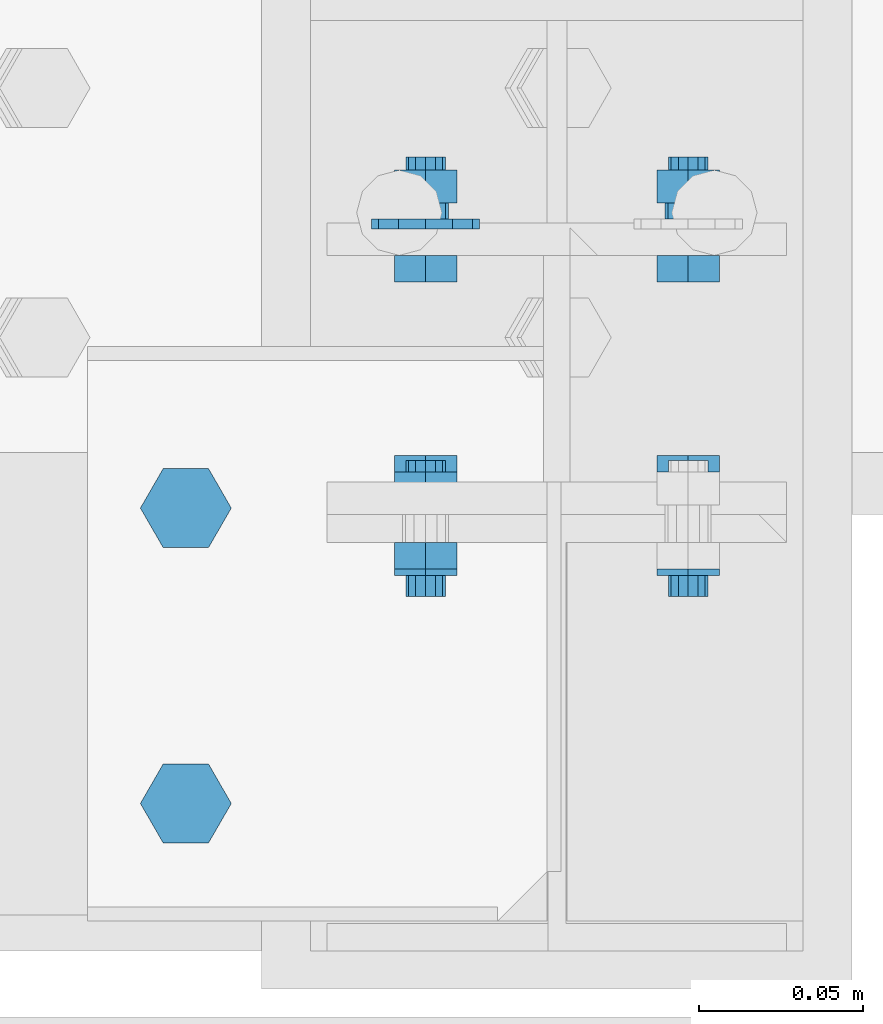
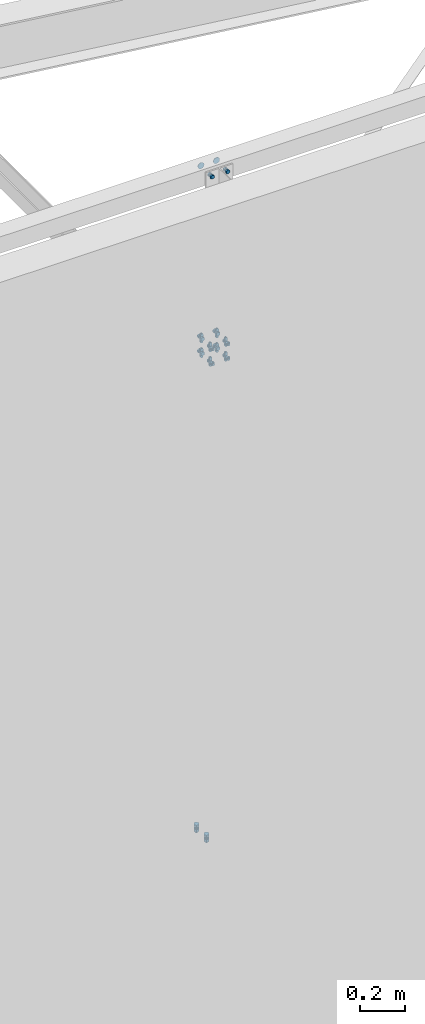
# One storey, part 297 of 3134: 5 mechanical fasteners, 4 elements without a shape of their own.
"""IFC2X3 building model written with IfcOpenShell, lengths in millimetres."""

from ifc_helpers import new_model, si_unit, frame, origin_with_axes, place, context, subcontext, project, spatial, faceted_brep, source, transform, mapped, material, type_object, element, aggregate, save


model = new_model("IFC2X3")

# Units and contexts
model_context = context("Model", 3, precision=1e-05, world=origin_with_axes())
body_context = subcontext(model_context, "Body", "Model", "MODEL_VIEW")
ifc_project = project(units=[si_unit("LENGTHUNIT", "METRE", prefix="MILLI"), si_unit("AREAUNIT", "SQUARE_METRE"), si_unit("VOLUMEUNIT", "CUBIC_METRE"), si_unit("MASSUNIT", "GRAM", prefix="KILO"), si_unit("TIMEUNIT", "SECOND"), si_unit("PLANEANGLEUNIT", "RADIAN"), si_unit("SOLIDANGLEUNIT", "STERADIAN"), si_unit("THERMODYNAMICTEMPERATUREUNIT", "DEGREE_CELSIUS"), si_unit("LUMINOUSINTENSITYUNIT", "LUMEN")], contexts=[model_context])

# Site, building, storey
site_placement = place(None, origin_with_axes())
site = spatial("IfcSite", under=ifc_project, at=site_placement, CompositionType="ELEMENT")
building_placement = place(site_placement, origin_with_axes())
building = spatial("IfcBuilding", under=site, at=building_placement, Name="Undefined", CompositionType="ELEMENT")
storey_placement = place(building_placement, origin_with_axes())
storey = spatial("IfcBuildingStorey", under=building, at=storey_placement, Name="Undefined", CompositionType="ELEMENT", Elevation=0.0)

# Assembly, mechanical fastener
assembly_1_placement = place(storey_placement, origin_with_axes())
assembly_1 = element("IfcElementAssembly", 1, at=assembly_1_placement, inside=storey, AssemblyPlace="NOTDEFINED", PredefinedType="RIGID_FRAME")
ifc_material = material(Name="8.8")
mechanical_fastener_type = type_object("IfcMechanicalFastenerType", Name="Bolt assembly")
shared_shape_1 = source(origin_with_axes(), body_context, "Body", "Brep", [
    faceted_brep([(16.5, -3.0, 0.0), (14.289419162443, -3.0, 8.25000000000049), (8.24999999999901, -3.0, 14.2894191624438), (-1.70995436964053e-12, -3.0, 16.5), (-8.25000000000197, -3.0, 14.2894191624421), (-14.2894191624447, -3.0, 8.24999999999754), (-16.5, -3.0, -3.41990873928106e-12), (-14.2894191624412, -3.0, -8.25000000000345), (-8.24999999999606, -3.0, -14.2894191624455), (5.11154442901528e-12, -3.0, -16.5), (8.25000000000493, -3.0, -14.2894191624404), (14.2894191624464, -3.0, -8.24999999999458), (14.2894191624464, 0.1, -8.24999999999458), (8.25000000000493, 0.1, -14.2894191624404), (5.11154442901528e-12, 0.1, -16.5), (-8.24999999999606, 0.1, -14.2894191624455), (-14.2894191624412, 0.1, -8.25000000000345), (-16.5, 0.1, -3.41990873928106e-12), (-14.2894191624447, 0.1, 8.24999999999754), (-8.25000000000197, 0.1, 14.2894191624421), (-1.70995436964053e-12, 0.1, 16.5), (8.24999999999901, 0.1, 14.2894191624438), (14.289419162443, 0.1, 8.25000000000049), (16.5, 0.1, 0.0)], [[[0, 1, 2, 3, 4, 5, 6, 7, 8, 9, 10, 11]], [[12, 13, 14, 15, 16, 17, 18, 19, 20, 21, 22, 23]], [[0, 23, 22, 1]], [[1, 22, 21, 2]], [[2, 21, 20, 3]], [[3, 20, 19, 4]], [[4, 19, 18, 5]], [[5, 18, 17, 6]], [[6, 17, 16, 7]], [[7, 16, 15, 8]], [[8, 15, 14, 9]], [[9, 14, 13, 10]], [[10, 13, 12, 11]], [[11, 12, 23, 0]]]),
])
mechanical_fastener_1_placement = place(assembly_1_placement, frame((61712.5, -2.0, 5934.99639945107), z_axis=(-1.0, 0.0, 0.0), x_axis=(0.0, 0.0, 1.0)))
mechanical_fastener_1 = element("IfcMechanicalFastener", 2, at=mechanical_fastener_1_placement, type_object=mechanical_fastener_type, material=ifc_material, Name="Bolt assembly", NominalDiameter=30.0, NominalLength=3.0, context=body_context, shape_type="MappedRepresentation", body=[
    mapped(shared_shape_1, transform((0.0, 0.0, -40.0))),
    mapped(shared_shape_1, transform((0.0, 0.0, 40.0))),
])

assembly_2_placement = place(storey_placement, origin_with_axes())
assembly_2 = element("IfcElementAssembly", 3, at=assembly_2_placement, inside=storey, Name="300", AssemblyPlace="NOTDEFINED", PredefinedType="RIGID_FRAME")
shared_shape_2 = source(origin_with_axes(), body_context, "Body", "Brep", [
    faceted_brep([(10.9696551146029, -21.0500000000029, 0.0), (5.48482755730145, -21.0500000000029, 9.5), (-5.48482755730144, -21.0500000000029, 9.5), (-10.9696551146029, -21.0500000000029, 1.34339530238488e-15), (-5.48482755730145, -21.0500000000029, -9.5), (5.48482755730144, -21.0500000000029, -9.50000000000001), (5.48482755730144, -13.0500000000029, -9.50000000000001), (-5.48482755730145, -13.0500000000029, -9.5), (-10.9696551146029, -13.0500000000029, 1.34339530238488e-15), (-5.48482755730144, -13.0500000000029, 9.5), (5.48482755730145, -13.0500000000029, 9.5), (10.9696551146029, -13.0500000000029, 0.0), (6.0, -13.0500000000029, 0.0), (5.19615242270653, -13.0500000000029, 3.00000000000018), (2.99999999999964, -13.0500000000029, 5.19615242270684), (-6.21801588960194e-13, -13.0500000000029, 6.0), (-3.00000000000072, -13.0500000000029, 5.19615242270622), (-5.19615242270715, -13.0500000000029, 2.9999999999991), (-6.0, -13.0500000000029, -1.24360317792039e-12), (-5.19615242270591, -13.0500000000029, -3.00000000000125), (-2.99999999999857, -13.0500000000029, -5.19615242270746), (1.85874342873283e-12, -13.0500000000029, -6.0), (3.00000000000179, -13.0500000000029, -5.1961524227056), (5.19615242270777, -13.0500000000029, -2.99999999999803), (5.19615242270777, 16.9499999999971, -2.99999999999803), (3.00000000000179, 16.9499999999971, -5.1961524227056), (1.85874342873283e-12, 16.9499999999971, -6.0), (-2.99999999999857, 16.9499999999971, -5.19615242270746), (-5.19615242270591, 16.9499999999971, -3.00000000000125), (-6.0, 16.9499999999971, -1.24360317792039e-12), (-5.19615242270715, 16.9499999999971, 2.9999999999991), (-3.00000000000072, 16.9499999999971, 5.19615242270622), (-6.21801588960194e-13, 16.9499999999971, 6.0), (2.99999999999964, 16.9499999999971, 5.19615242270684), (5.19615242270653, 16.9499999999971, 3.00000000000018), (6.0, 16.9499999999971, 0.0), (10.9696551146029, 3.04999995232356, 0.0), (5.48482755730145, 3.04999995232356, 9.5), (-5.48482755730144, 3.04999995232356, 9.5), (-10.9696551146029, 3.04999995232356, 1.34339530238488e-15), (-5.48482755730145, 3.04999995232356, -9.5), (5.48482755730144, 3.04999995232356, -9.50000000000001), (5.48482755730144, 13.0499999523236, -9.50000000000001), (-5.48482755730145, 13.0499999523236, -9.5), (-10.9696551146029, 13.0499999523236, 1.34339530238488e-15), (-5.48482755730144, 13.0499999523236, 9.5), (5.48482755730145, 13.0499999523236, 9.5), (10.9696551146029, 13.0499999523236, 0.0)], [[[0, 1, 2, 3, 4, 5]], [[6, 7, 8, 9, 10, 11]], [[0, 11, 10, 1]], [[1, 10, 9, 2]], [[2, 9, 8, 3]], [[3, 8, 7, 4]], [[4, 7, 6, 5]], [[5, 6, 11, 0]], [[12, 13, 14, 15, 16, 17, 18, 19, 20, 21, 22, 23]], [[24, 25, 26, 27, 28, 29, 30, 31, 32, 33, 34, 35]], [[12, 35, 34, 13]], [[13, 34, 33, 14]], [[14, 33, 32, 15]], [[15, 32, 31, 16]], [[16, 31, 30, 17]], [[17, 30, 29, 18]], [[18, 29, 28, 19]], [[19, 28, 27, 20]], [[20, 27, 26, 21]], [[21, 26, 25, 22]], [[22, 25, 24, 23]], [[23, 24, 35, 12]], [[36, 37, 38, 39, 40, 41]], [[42, 43, 44, 45, 46, 47]], [[36, 47, 46, 37]], [[37, 46, 45, 38]], [[38, 45, 44, 39]], [[39, 44, 43, 40]], [[40, 43, 42, 41]], [[41, 42, 47, 36]]]),
    faceted_brep([(26.0, -12.9500000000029, 0.0), (25.4671567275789, -12.9500000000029, 2.6787840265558), (23.9497474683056, -12.9500000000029, 4.94974746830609), (21.6787840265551, -12.9500000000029, 6.46715672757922), (-19.0000000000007, -12.9500000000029, 7.0), (-22.5000000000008, -12.9500000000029, 6.06217782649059), (-25.0621778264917, -12.9500000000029, 3.49999999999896), (-26.0, -12.9500000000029, -1.45087037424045e-12), (-25.0621778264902, -12.9500000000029, -3.50000000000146), (-22.4999999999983, -12.9500000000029, -6.06217782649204), (-18.9999999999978, -12.9500000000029, -7.0), (19.0000000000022, -12.9500000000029, -7.0), (22.5000000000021, -12.9500000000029, -6.06217782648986), (25.0621778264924, -12.9500000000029, -3.4999999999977), (26.0, -2.95000000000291, 0.0), (25.0621778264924, -2.95000000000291, -3.4999999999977), (22.5000000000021, -2.95000000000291, -6.06217782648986), (19.0000000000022, -2.95000000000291, -7.0), (-18.9999999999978, -2.95000000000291, -7.0), (-22.4999999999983, -2.95000000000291, -6.06217782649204), (-25.0621778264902, -2.95000000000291, -3.50000000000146), (-26.0, -2.95000000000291, -1.45087037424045e-12), (-25.0621778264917, -2.95000000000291, 3.49999999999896), (-22.5000000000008, -2.95000000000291, 6.06217782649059), (-19.0000000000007, -2.95000000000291, 7.0), (21.6787840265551, -2.95000000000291, 6.46715672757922), (23.9497474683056, -2.95000000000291, 4.94974746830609), (25.4671567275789, -2.95000000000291, 2.6787840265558), (7.0, -3.14999995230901, 0.0), (6.06217782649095, -3.14999995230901, 3.50000000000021), (3.49999999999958, -3.14999995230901, 6.06217782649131), (-7.25435187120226e-13, -3.14999995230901, 7.0), (-3.50000000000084, -3.14999995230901, 6.06217782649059), (-6.06217782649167, -3.14999995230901, 3.49999999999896), (-7.0, -3.14999995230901, -1.45087037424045e-12), (-6.06217782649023, -3.14999995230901, -3.50000000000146), (-3.49999999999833, -3.14999995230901, -6.06217782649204), (2.1685340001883e-12, -3.14999995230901, -7.0), (3.50000000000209, -3.14999995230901, -6.06217782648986), (6.0621778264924, -3.14999995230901, -3.4999999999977), (6.0621778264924, 3.04999995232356, -3.4999999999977), (3.50000000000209, 3.04999995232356, -6.06217782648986), (2.1685340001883e-12, 3.04999995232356, -7.0), (-3.49999999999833, 3.04999995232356, -6.06217782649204), (-6.06217782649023, 3.04999995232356, -3.50000000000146), (-7.0, 3.04999995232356, -1.45087037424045e-12), (-6.06217782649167, 3.04999995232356, 3.49999999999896), (-3.50000000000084, 3.04999995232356, 6.06217782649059), (-7.25435187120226e-13, 3.04999995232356, 7.0), (3.49999999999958, 3.04999995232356, 6.06217782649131), (6.06217782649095, 3.04999995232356, 3.50000000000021), (7.0, 3.04999995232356, 0.0)], [[[0, 1, 2, 3, 4, 5, 6, 7, 8, 9, 10, 11, 12, 13]], [[14, 15, 16, 17, 18, 19, 20, 21, 22, 23, 24, 25, 26, 27]], [[0, 14, 27, 1]], [[1, 27, 26, 2]], [[2, 26, 25, 3]], [[3, 25, 24, 4]], [[4, 24, 23, 5]], [[5, 23, 22, 6]], [[6, 22, 21, 7]], [[7, 21, 20, 8]], [[8, 20, 19, 9]], [[9, 19, 18, 10]], [[10, 18, 17, 11]], [[11, 17, 16, 12]], [[12, 16, 15, 13]], [[13, 15, 14, 0]], [[28, 29, 30, 31, 32, 33, 34, 35, 36, 37, 38, 39]], [[40, 41, 42, 43, 44, 45, 46, 47, 48, 49, 50, 51]], [[28, 51, 50, 29]], [[29, 50, 49, 30]], [[30, 49, 48, 31]], [[31, 48, 47, 32]], [[32, 47, 46, 33]], [[33, 46, 45, 34]], [[34, 45, 44, 35]], [[35, 44, 43, 36]], [[36, 43, 42, 37]], [[37, 42, 41, 38]], [[38, 41, 40, 39]], [[39, 40, 51, 28]]]),
])
mechanical_fastener_2_placement = place(assembly_2_placement, frame((61712.4999999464, 0.0, 4996.39642111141), z_axis=(1.0, 0.0, 0.0), x_axis=(0.0, 0.0, -1.0)))
mechanical_fastener_2 = element("IfcMechanicalFastener", 4, at=mechanical_fastener_2_placement, type_object=mechanical_fastener_type, material=ifc_material, Name="Bolt assembly", NominalDiameter=12.0, NominalLength=30.0, context=body_context, shape_type="MappedRepresentation", body=[
    mapped(shared_shape_2, transform((0.0, 0.0, -40.0))),
    mapped(shared_shape_2, transform((80.0, 0.0, -40.0))),
    mapped(shared_shape_2, transform((0.0, 0.0, 40.0))),
    mapped(shared_shape_2, transform((80.0, 0.0, 40.0))),
])
aggregate(assembly_2, [mechanical_fastener_2])

assembly_3_placement = place(storey_placement, origin_with_axes())
assembly_3 = element("IfcElementAssembly", 5, at=assembly_3_placement, inside=storey, AssemblyPlace="NOTDEFINED", PredefinedType="RIGID_FRAME")
shared_shape_3 = source(origin_with_axes(), body_context, "Body", "Brep", [
    faceted_brep([(10.9696551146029, -18.0, 0.0), (5.48482755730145, -18.0, 9.5), (-5.48482755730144, -18.0, 9.5), (-10.9696551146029, -18.0, 1.34339530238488e-15), (-5.48482755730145, -18.0, -9.5), (5.48482755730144, -18.0, -9.50000000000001), (5.48482755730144, -10.0, -9.50000000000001), (-5.48482755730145, -10.0, -9.5), (-10.9696551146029, -10.0, 1.34339530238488e-15), (-5.48482755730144, -10.0, 9.5), (5.48482755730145, -10.0, 9.5), (10.9696551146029, -10.0, 0.0), (6.0, -10.0, 0.0), (5.19615242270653, -10.0, 3.00000000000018), (2.99999999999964, -10.0, 5.19615242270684), (-6.21801588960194e-13, -10.0, 6.0), (-3.00000000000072, -10.0, 5.19615242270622), (-5.19615242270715, -10.0, 2.9999999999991), (-6.0, -10.0, -1.24360317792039e-12), (-5.19615242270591, -10.0, -3.00000000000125), (-2.99999999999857, -10.0, -5.19615242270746), (1.85874342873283e-12, -10.0, -6.0), (3.00000000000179, -10.0, -5.1961524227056), (5.19615242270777, -10.0, -2.99999999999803), (5.19615242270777, 24.9999999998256, -2.99999999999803), (3.00000000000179, 24.9999999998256, -5.1961524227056), (1.85874342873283e-12, 24.9999999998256, -6.0), (-2.99999999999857, 24.9999999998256, -5.19615242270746), (-5.19615242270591, 24.9999999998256, -3.00000000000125), (-6.0, 24.9999999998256, -1.24360317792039e-12), (-5.19615242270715, 24.9999999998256, 2.9999999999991), (-3.00000000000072, 24.9999999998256, 5.19615242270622), (-6.21801588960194e-13, 24.9999999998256, 6.0), (2.99999999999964, 24.9999999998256, 5.19615242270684), (5.19615242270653, 24.9999999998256, 3.00000000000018), (6.0, 24.9999999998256, 0.0), (10.9696551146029, 8.5, 0.0), (5.48482755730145, 8.5, 9.5), (-5.48482755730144, 8.5, 9.5), (-10.9696551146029, 8.5, 1.34339530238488e-15), (-5.48482755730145, 8.5, -9.5), (5.48482755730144, 8.5, -9.50000000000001), (5.48482755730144, 18.5, -9.50000000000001), (-5.48482755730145, 18.5, -9.5), (-10.9696551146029, 18.5, 1.34339530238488e-15), (-5.48482755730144, 18.5, 9.5), (5.48482755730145, 18.5, 9.5), (10.9696551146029, 18.5, 0.0)], [[[0, 1, 2, 3, 4, 5]], [[6, 7, 8, 9, 10, 11]], [[0, 11, 10, 1]], [[1, 10, 9, 2]], [[2, 9, 8, 3]], [[3, 8, 7, 4]], [[4, 7, 6, 5]], [[5, 6, 11, 0]], [[12, 13, 14, 15, 16, 17, 18, 19, 20, 21, 22, 23]], [[24, 25, 26, 27, 28, 29, 30, 31, 32, 33, 34, 35]], [[12, 35, 34, 13]], [[13, 34, 33, 14]], [[14, 33, 32, 15]], [[15, 32, 31, 16]], [[16, 31, 30, 17]], [[17, 30, 29, 18]], [[18, 29, 28, 19]], [[19, 28, 27, 20]], [[20, 27, 26, 21]], [[21, 26, 25, 22]], [[22, 25, 24, 23]], [[23, 24, 35, 12]], [[36, 37, 38, 39, 40, 41]], [[42, 43, 44, 45, 46, 47]], [[36, 47, 46, 37]], [[37, 46, 45, 38]], [[38, 45, 44, 39]], [[39, 44, 43, 40]], [[40, 43, 42, 41]], [[41, 42, 47, 36]]]),
    faceted_brep([(7.0, -0.1, 0.0), (6.06217782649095, -0.1, 3.50000000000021), (3.49999999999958, -0.1, 6.06217782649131), (-7.25435187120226e-13, -0.1, 7.0), (-3.50000000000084, -0.1, 6.06217782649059), (-6.06217782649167, -0.1, 3.49999999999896), (-7.0, -0.1, -1.45087037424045e-12), (-6.06217782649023, -0.1, -3.50000000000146), (-3.49999999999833, -0.1, -6.06217782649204), (2.1685340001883e-12, -0.1, -7.0), (3.50000000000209, -0.1, -6.06217782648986), (6.0621778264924, -0.1, -3.4999999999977), (6.0621778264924, 8.5, -3.4999999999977), (3.50000000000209, 8.5, -6.06217782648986), (2.1685340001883e-12, 8.5, -7.0), (-3.49999999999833, 8.5, -6.06217782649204), (-6.06217782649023, 8.5, -3.50000000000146), (-7.0, 8.5, -1.45087037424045e-12), (-6.06217782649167, 8.5, 3.49999999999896), (-3.50000000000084, 8.5, 6.06217782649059), (-7.25435187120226e-13, 8.5, 7.0), (3.49999999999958, 8.5, 6.06217782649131), (6.06217782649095, 8.5, 3.50000000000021), (7.0, 8.5, 0.0), (26.0, -9.9, 0.0), (25.4671567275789, -9.9, 2.6787840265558), (23.9497474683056, -9.9, 4.94974746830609), (21.6787840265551, -9.9, 6.46715672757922), (-19.0000000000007, -9.9, 7.0), (-22.5000000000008, -9.9, 6.06217782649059), (-25.0621778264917, -9.9, 3.49999999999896), (-26.0, -9.9, -1.45087037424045e-12), (-25.0621778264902, -9.9, -3.50000000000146), (-22.4999999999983, -9.9, -6.06217782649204), (-18.9999999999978, -9.9, -7.0), (19.0000000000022, -9.9, -7.0), (22.5000000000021, -9.9, -6.06217782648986), (25.0621778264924, -9.9, -3.4999999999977), (26.0, 0.0999999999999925, 0.0), (25.0621778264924, 0.0999999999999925, -3.4999999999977), (22.5000000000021, 0.0999999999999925, -6.06217782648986), (19.0000000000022, 0.0999999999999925, -7.0), (-18.9999999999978, 0.0999999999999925, -7.0), (-22.4999999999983, 0.0999999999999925, -6.06217782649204), (-25.0621778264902, 0.0999999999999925, -3.50000000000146), (-26.0, 0.0999999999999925, -1.45087037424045e-12), (-25.0621778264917, 0.0999999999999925, 3.49999999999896), (-22.5000000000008, 0.0999999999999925, 6.06217782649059), (-19.0000000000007, 0.0999999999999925, 7.0), (21.6787840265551, 0.0999999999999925, 6.46715672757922), (23.9497474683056, 0.0999999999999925, 4.94974746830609), (25.4671567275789, 0.0999999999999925, 2.6787840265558)], [[[0, 1, 2, 3, 4, 5, 6, 7, 8, 9, 10, 11]], [[12, 13, 14, 15, 16, 17, 18, 19, 20, 21, 22, 23]], [[0, 23, 22, 1]], [[1, 22, 21, 2]], [[2, 21, 20, 3]], [[3, 20, 19, 4]], [[4, 19, 18, 5]], [[5, 18, 17, 6]], [[6, 17, 16, 7]], [[7, 16, 15, 8]], [[8, 15, 14, 9]], [[9, 14, 13, 10]], [[10, 13, 12, 11]], [[11, 12, 23, 0]], [[24, 25, 26, 27, 28, 29, 30, 31, 32, 33, 34, 35, 36, 37]], [[38, 39, 40, 41, 42, 43, 44, 45, 46, 47, 48, 49, 50, 51]], [[24, 38, 51, 25]], [[25, 51, 50, 26]], [[26, 50, 49, 27]], [[27, 49, 48, 28]], [[28, 48, 47, 29]], [[29, 47, 46, 30]], [[30, 46, 45, 31]], [[31, 45, 44, 32]], [[32, 44, 43, 33]], [[33, 43, 42, 34]], [[34, 42, 41, 35]], [[35, 41, 40, 36]], [[36, 40, 39, 37]], [[37, 39, 38, 24]]]),
])
mechanical_fastener_3_placement = place(assembly_3_placement, frame((61712.4999999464, -92.0, 4996.39642111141), z_axis=(-1.0, 0.0, 0.0), x_axis=(0.0, 0.0, -1.0)))
mechanical_fastener_3 = element("IfcMechanicalFastener", 6, at=mechanical_fastener_3_placement, type_object=mechanical_fastener_type, material=ifc_material, Name="Bolt assembly", NominalDiameter=12.0, NominalLength=35.0, context=body_context, shape_type="MappedRepresentation", body=[
    mapped(shared_shape_3, transform((0.0, 0.0, -40.0))),
    mapped(shared_shape_3, transform((80.0, 0.0, -40.0))),
    mapped(shared_shape_3, transform((0.0, 0.0, 40.0))),
    mapped(shared_shape_3, transform((80.0, 0.0, 40.0))),
])
aggregate(assembly_3, [mechanical_fastener_3])

assembly_4_placement = place(storey_placement, origin_with_axes())
assembly_4 = element("IfcElementAssembly", 7, at=assembly_4_placement, inside=storey, Name="300", AssemblyPlace="NOTDEFINED", PredefinedType="RIGID_FRAME")
shared_shape_4 = source(origin_with_axes(), body_context, "Body", "Brep", [
    faceted_brep([(13.856406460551, -18.0, 0.0), (6.92820323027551, -18.0, 12.0), (-6.92820323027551, -18.0, 12.0), (-13.856406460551, -18.0, 1.69692038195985e-15), (-6.92820323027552, -18.0, -12.0), (6.9282032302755, -18.0, -12.0), (6.9282032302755, -7.99999766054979, -12.0), (-6.92820323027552, -7.99999766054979, -12.0), (-13.856406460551, -7.99999766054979, 1.69692038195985e-15), (-6.92820323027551, -7.99999766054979, 12.0), (6.92820323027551, -7.99999766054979, 12.0), (13.856406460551, -7.99999766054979, 0.0), (8.0, -8.0, 0.0), (6.92820323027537, -8.0, 4.00000000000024), (3.99999999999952, -8.0, 6.92820323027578), (-8.29068785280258e-13, -8.0, 8.0), (-4.00000000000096, -8.0, 6.92820323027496), (-6.9282032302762, -8.0, 3.99999999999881), (-8.0, -8.0, -1.65813757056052e-12), (-6.92820323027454, -8.0, -4.00000000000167), (-3.99999999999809, -8.0, -6.92820323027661), (2.47832457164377e-12, -8.0, -8.0), (4.00000000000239, -8.0, -6.92820323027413), (6.92820323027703, -8.0, -3.99999999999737), (6.92820323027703, 27.0, -3.99999999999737), (4.00000000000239, 27.0, -6.92820323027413), (2.47832457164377e-12, 27.0, -8.0), (-3.99999999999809, 27.0, -6.92820323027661), (-6.92820323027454, 27.0, -4.00000000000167), (-8.0, 27.0, -1.65813757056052e-12), (-6.9282032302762, 27.0, 3.99999999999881), (-4.00000000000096, 27.0, 6.92820323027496), (-8.29068785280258e-13, 27.0, 8.0), (3.99999999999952, 27.0, 6.92820323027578), (6.92820323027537, 27.0, 4.00000000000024), (8.0, 27.0, 0.0), (13.856406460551, 5.99999999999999, 0.0), (6.92820323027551, 5.99999999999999, 12.0), (-6.92820323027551, 5.99999999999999, 12.0), (-13.856406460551, 5.99999999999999, 1.69692038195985e-15), (-6.92820323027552, 5.99999999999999, -12.0), (6.9282032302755, 5.99999999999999, -12.0), (6.9282032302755, 19.0, -12.0), (-6.92820323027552, 19.0, -12.0), (-13.856406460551, 19.0, 1.69692038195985e-15), (-6.92820323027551, 19.0, 12.0), (6.92820323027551, 19.0, 12.0), (13.856406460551, 19.0, 0.0)], [[[0, 1, 2, 3, 4, 5]], [[6, 7, 8, 9, 10, 11]], [[0, 11, 10, 1]], [[1, 10, 9, 2]], [[2, 9, 8, 3]], [[3, 8, 7, 4]], [[4, 7, 6, 5]], [[5, 6, 11, 0]], [[12, 13, 14, 15, 16, 17, 18, 19, 20, 21, 22, 23]], [[24, 25, 26, 27, 28, 29, 30, 31, 32, 33, 34, 35]], [[12, 35, 34, 13]], [[13, 34, 33, 14]], [[14, 33, 32, 15]], [[15, 32, 31, 16]], [[16, 31, 30, 17]], [[17, 30, 29, 18]], [[18, 29, 28, 19]], [[19, 28, 27, 20]], [[20, 27, 26, 21]], [[21, 26, 25, 22]], [[22, 25, 24, 23]], [[23, 24, 35, 12]], [[36, 37, 38, 39, 40, 41]], [[42, 43, 44, 45, 46, 47]], [[36, 47, 46, 37]], [[37, 46, 45, 38]], [[38, 45, 44, 39]], [[39, 44, 43, 40]], [[40, 43, 42, 41]], [[41, 42, 47, 36]]]),
    faceted_brep([(9.0, -7.9, 0.0), (7.79422863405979, -7.9, 4.50000000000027), (4.49999999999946, -7.9, 7.79422863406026), (-9.3270238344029e-13, -7.9, 9.0), (-4.50000000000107, -7.9, 7.79422863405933), (-7.79422863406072, -7.9, 4.49999999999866), (-9.0, -7.9, -1.86540476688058e-12), (-7.79422863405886, -7.9, -4.50000000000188), (-4.49999999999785, -7.9, -7.79422863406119), (2.78811514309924e-12, -7.9, -9.0), (4.50000000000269, -7.9, -7.7942286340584), (7.79422863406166, -7.9, -4.49999999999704), (7.79422863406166, 0.100000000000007, -4.49999999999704), (4.50000000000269, 0.100000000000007, -7.7942286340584), (2.78811514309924e-12, 0.100000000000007, -9.0), (-4.49999999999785, 0.100000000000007, -7.79422863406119), (-7.79422863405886, 0.100000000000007, -4.50000000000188), (-9.0, 0.100000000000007, -1.86540476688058e-12), (-7.79422863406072, 0.100000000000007, 4.49999999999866), (-4.50000000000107, 0.100000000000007, 7.79422863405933), (-9.3270238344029e-13, 0.100000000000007, 9.0), (4.49999999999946, 0.100000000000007, 7.79422863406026), (7.79422863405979, 0.100000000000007, 4.50000000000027), (9.0, 0.100000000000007, 0.0), (9.0, -0.1, 0.0), (7.79422863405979, -0.1, 4.50000000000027), (4.49999999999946, -0.1, 7.79422863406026), (-9.3270238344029e-13, -0.1, 9.0), (-4.50000000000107, -0.1, 7.79422863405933), (-7.79422863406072, -0.1, 4.49999999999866), (-9.0, -0.1, -1.86540476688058e-12), (-7.79422863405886, -0.1, -4.50000000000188), (-4.49999999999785, -0.1, -7.79422863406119), (2.78811514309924e-12, -0.1, -9.0), (4.50000000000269, -0.1, -7.7942286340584), (7.79422863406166, -0.1, -4.49999999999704), (7.79422863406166, 5.99999999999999, -4.49999999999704), (4.50000000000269, 5.99999999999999, -7.7942286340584), (2.78811514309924e-12, 5.99999999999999, -9.0), (-4.49999999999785, 5.99999999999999, -7.79422863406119), (-7.79422863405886, 5.99999999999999, -4.50000000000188), (-9.0, 5.99999999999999, -1.86540476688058e-12), (-7.79422863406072, 5.99999999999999, 4.49999999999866), (-4.50000000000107, 5.99999999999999, 7.79422863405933), (-9.3270238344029e-13, 5.99999999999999, 9.0), (4.49999999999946, 5.99999999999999, 7.79422863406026), (7.79422863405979, 5.99999999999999, 4.50000000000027), (9.0, 5.99999999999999, 0.0)], [[[0, 1, 2, 3, 4, 5, 6, 7, 8, 9, 10, 11]], [[12, 13, 14, 15, 16, 17, 18, 19, 20, 21, 22, 23]], [[0, 23, 22, 1]], [[1, 22, 21, 2]], [[2, 21, 20, 3]], [[3, 20, 19, 4]], [[4, 19, 18, 5]], [[5, 18, 17, 6]], [[6, 17, 16, 7]], [[7, 16, 15, 8]], [[8, 15, 14, 9]], [[9, 14, 13, 10]], [[10, 13, 12, 11]], [[11, 12, 23, 0]], [[24, 25, 26, 27, 28, 29, 30, 31, 32, 33, 34, 35]], [[36, 37, 38, 39, 40, 41, 42, 43, 44, 45, 46, 47]], [[24, 47, 46, 25]], [[25, 46, 45, 26]], [[26, 45, 44, 27]], [[27, 44, 43, 28]], [[28, 43, 42, 29]], [[29, 42, 41, 30]], [[30, 41, 40, 31]], [[31, 40, 39, 32]], [[32, 39, 38, 33]], [[33, 38, 37, 34]], [[34, 37, 36, 35]], [[35, 36, 47, 24]]]),
])
mechanical_fastener_4_placement = place(assembly_4_placement, frame((61599.4500000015, -135.0, 2400.0), z_axis=(0.0, -1.0, 0.0), x_axis=(-1.0, 0.0, 0.0)))
mechanical_fastener_4 = element("IfcMechanicalFastener", 8, at=mechanical_fastener_4_placement, type_object=mechanical_fastener_type, material=ifc_material, Name="Bolt assembly", NominalDiameter=16.0, NominalLength=35.0, context=body_context, shape_type="MappedRepresentation", body=[
    mapped(shared_shape_4, transform((0.0, 0.0, -45.0))),
    mapped(shared_shape_4, transform((0.0, 0.0, 45.0))),
])
aggregate(assembly_4, [mechanical_fastener_4])

# Mechanical fastener
shared_shape_5 = source(origin_with_axes(), body_context, "Body", "Brep", [
    faceted_brep([(10.9696551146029, -16.5, 0.0), (5.48482755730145, -16.5, 9.5), (-5.48482755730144, -16.5, 9.5), (-10.9696551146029, -16.5, 1.34339530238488e-15), (-5.48482755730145, -16.5, -9.5), (5.48482755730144, -16.5, -9.50000000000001), (5.48482755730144, -8.5, -9.50000000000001), (-5.48482755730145, -8.5, -9.5), (-10.9696551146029, -8.5, 1.34339530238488e-15), (-5.48482755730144, -8.5, 9.5), (5.48482755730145, -8.5, 9.5), (10.9696551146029, -8.5, 0.0), (6.0, -8.5, 0.0), (5.19615242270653, -8.5, 3.00000000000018), (2.99999999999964, -8.5, 5.19615242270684), (-6.21801588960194e-13, -8.5, 6.0), (-3.00000000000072, -8.5, 5.19615242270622), (-5.19615242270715, -8.5, 2.9999999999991), (-6.0, -8.5, -1.24360317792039e-12), (-5.19615242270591, -8.5, -3.00000000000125), (-2.99999999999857, -8.5, -5.19615242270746), (1.85874342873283e-12, -8.5, -6.0), (3.00000000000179, -8.5, -5.1961524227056), (5.19615242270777, -8.5, -2.99999999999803), (5.19615242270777, 16.5, -2.99999999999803), (3.00000000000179, 16.5, -5.1961524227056), (1.85874342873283e-12, 16.5, -6.0), (-2.99999999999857, 16.5, -5.19615242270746), (-5.19615242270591, 16.5, -3.00000000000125), (-6.0, 16.5, -1.24360317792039e-12), (-5.19615242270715, 16.5, 2.9999999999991), (-3.00000000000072, 16.5, 5.19615242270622), (-6.21801588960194e-13, 16.5, 6.0), (2.99999999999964, 16.5, 5.19615242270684), (5.19615242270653, 16.5, 3.00000000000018), (6.0, 16.5, 0.0), (10.9696551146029, 3.00000000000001, 0.0), (5.48482755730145, 3.00000000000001, 9.5), (-5.48482755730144, 3.00000000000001, 9.5), (-10.9696551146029, 3.00000000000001, 1.34339530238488e-15), (-5.48482755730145, 3.00000000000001, -9.5), (5.48482755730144, 3.00000000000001, -9.50000000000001), (5.48482755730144, 13.0, -9.50000000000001), (-5.48482755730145, 13.0, -9.5), (-10.9696551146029, 13.0, 1.34339530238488e-15), (-5.48482755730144, 13.0, 9.5), (5.48482755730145, 13.0, 9.5), (10.9696551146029, 13.0, 0.0)], [[[0, 1, 2, 3, 4, 5]], [[6, 7, 8, 9, 10, 11]], [[0, 11, 10, 1]], [[1, 10, 9, 2]], [[2, 9, 8, 3]], [[3, 8, 7, 4]], [[4, 7, 6, 5]], [[5, 6, 11, 0]], [[12, 13, 14, 15, 16, 17, 18, 19, 20, 21, 22, 23]], [[24, 25, 26, 27, 28, 29, 30, 31, 32, 33, 34, 35]], [[12, 35, 34, 13]], [[13, 34, 33, 14]], [[14, 33, 32, 15]], [[15, 32, 31, 16]], [[16, 31, 30, 17]], [[17, 30, 29, 18]], [[18, 29, 28, 19]], [[19, 28, 27, 20]], [[20, 27, 26, 21]], [[21, 26, 25, 22]], [[22, 25, 24, 23]], [[23, 24, 35, 12]], [[36, 37, 38, 39, 40, 41]], [[42, 43, 44, 45, 46, 47]], [[36, 47, 46, 37]], [[37, 46, 45, 38]], [[38, 45, 44, 39]], [[39, 44, 43, 40]], [[40, 43, 42, 41]], [[41, 42, 47, 36]]]),
    faceted_brep([(7.0, -8.4, 0.0), (6.06217782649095, -8.4, 3.50000000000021), (3.49999999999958, -8.4, 6.06217782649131), (-7.25435187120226e-13, -8.4, 7.0), (-3.50000000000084, -8.4, 6.06217782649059), (-6.06217782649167, -8.4, 3.49999999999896), (-7.0, -8.4, -1.45087037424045e-12), (-6.06217782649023, -8.4, -3.50000000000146), (-3.49999999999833, -8.4, -6.06217782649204), (2.1685340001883e-12, -8.4, -7.0), (3.50000000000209, -8.4, -6.06217782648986), (6.0621778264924, -8.4, -3.4999999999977), (6.0621778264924, 0.0999999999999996, -3.4999999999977), (3.50000000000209, 0.0999999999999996, -6.06217782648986), (2.1685340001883e-12, 0.0999999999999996, -7.0), (-3.49999999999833, 0.0999999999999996, -6.06217782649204), (-6.06217782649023, 0.0999999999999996, -3.50000000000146), (-7.0, 0.0999999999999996, -1.45087037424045e-12), (-6.06217782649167, 0.0999999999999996, 3.49999999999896), (-3.50000000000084, 0.0999999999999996, 6.06217782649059), (-7.25435187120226e-13, 0.0999999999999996, 7.0), (3.49999999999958, 0.0999999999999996, 6.06217782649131), (6.06217782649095, 0.0999999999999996, 3.50000000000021), (7.0, 0.0999999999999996, 0.0), (7.0, -0.1, 0.0), (6.06217782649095, -0.1, 3.50000000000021), (3.49999999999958, -0.1, 6.06217782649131), (-7.25435187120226e-13, -0.1, 7.0), (-3.50000000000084, -0.1, 6.06217782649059), (-6.06217782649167, -0.1, 3.49999999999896), (-7.0, -0.1, -1.45087037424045e-12), (-6.06217782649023, -0.1, -3.50000000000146), (-3.49999999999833, -0.1, -6.06217782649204), (2.1685340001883e-12, -0.1, -7.0), (3.50000000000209, -0.1, -6.06217782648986), (6.0621778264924, -0.1, -3.4999999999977), (6.0621778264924, 3.0, -3.4999999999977), (3.50000000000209, 3.0, -6.06217782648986), (2.1685340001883e-12, 3.0, -7.0), (-3.49999999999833, 3.0, -6.06217782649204), (-6.06217782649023, 3.0, -3.50000000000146), (-7.0, 3.0, -1.45087037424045e-12), (-6.06217782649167, 3.0, 3.49999999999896), (-3.50000000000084, 3.0, 6.06217782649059), (-7.25435187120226e-13, 3.0, 7.0), (3.49999999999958, 3.0, 6.06217782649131), (6.06217782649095, 3.0, 3.50000000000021), (7.0, 3.0, 0.0)], [[[0, 1, 2, 3, 4, 5, 6, 7, 8, 9, 10, 11]], [[12, 13, 14, 15, 16, 17, 18, 19, 20, 21, 22, 23]], [[0, 23, 22, 1]], [[1, 22, 21, 2]], [[2, 21, 20, 3]], [[3, 20, 19, 4]], [[4, 19, 18, 5]], [[5, 18, 17, 6]], [[6, 17, 16, 7]], [[7, 16, 15, 8]], [[8, 15, 14, 9]], [[9, 14, 13, 10]], [[10, 13, 12, 11]], [[11, 12, 23, 0]], [[24, 25, 26, 27, 28, 29, 30, 31, 32, 33, 34, 35]], [[36, 37, 38, 39, 40, 41, 42, 43, 44, 45, 46, 47]], [[24, 47, 46, 25]], [[25, 46, 45, 26]], [[26, 45, 44, 27]], [[27, 44, 43, 28]], [[28, 43, 42, 29]], [[29, 42, 41, 30]], [[30, 41, 40, 31]], [[31, 40, 39, 32]], [[32, 39, 38, 33]], [[33, 38, 37, 34]], [[34, 37, 36, 35]], [[35, 36, 47, 24]]]),
])
mechanical_fastener_5_placement = place(assembly_1_placement, frame((61712.5, -92.0, 5934.99639945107), z_axis=(-1.0, 0.0, 0.0), x_axis=(0.0, 0.0, 1.0)))
mechanical_fastener_5 = element("IfcMechanicalFastener", 9, at=mechanical_fastener_5_placement, type_object=mechanical_fastener_type, material=ifc_material, Name="Bolt assembly", NominalDiameter=12.0, NominalLength=25.0, context=body_context, shape_type="MappedRepresentation", body=[
    mapped(shared_shape_5, transform((0.0, 0.0, -40.0))),
    mapped(shared_shape_5, transform((0.0, 0.0, 40.0))),
])

aggregate(assembly_1, [mechanical_fastener_5, mechanical_fastener_1])

save(model, "model.ifc")
